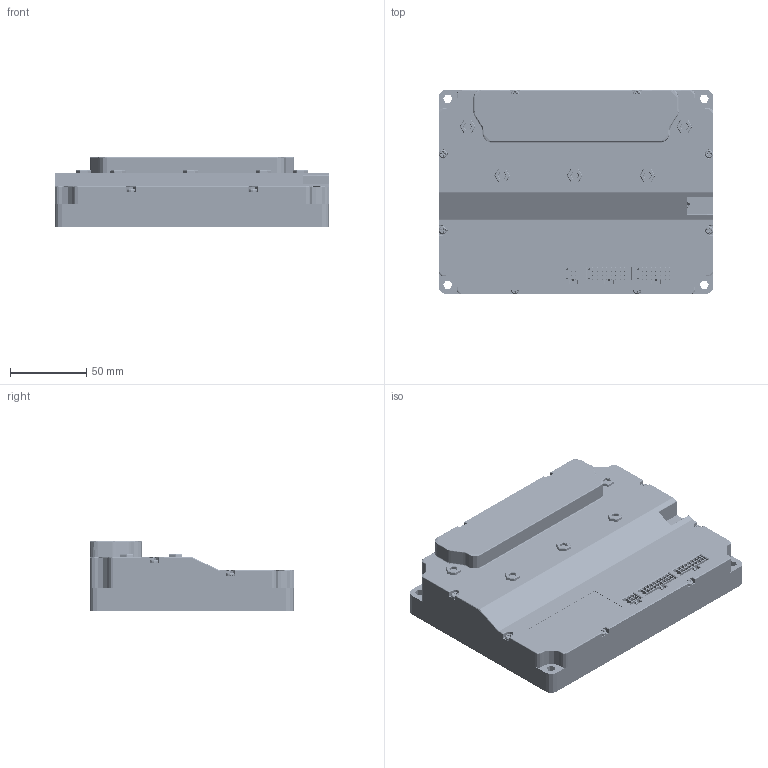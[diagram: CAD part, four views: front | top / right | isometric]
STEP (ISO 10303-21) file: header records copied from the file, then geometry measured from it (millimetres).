
FILE_DESCRIPTION (( 'STEP AP203' ), '1' );
FILE_NAME ('FTD100.STEP', '2020-03-31T15:57:50', ( '' ), ( '' ), 'SwSTEP 2.0', 'SolidWorks 2016', '' );
FILE_SCHEMA (( 'CONFIG_CONTROL_DESIGN' ));
Length unit declared in the file: millimetre
Products named in the file (662): 6.3X7.7X2.2; R77; R210; R160; C63; User_Library-Array-1206-4Way-Var2-1_Anschl_X_FCsse_1; SW3DPS-TO263-3S_450155217; TI_PDSO-14_PWP; C134; SC6; R40; R202; C21; R13; PIN; D40; D32; R84; D25; SC11; SW3dPS-TO263-3S_Board9; C110; FTSH-105-01-LM-DV-K; Sphere; R2; R38; BODY_4; basetta; IC3; IC15; R15_CPY; cap_0805; R150; C44; R199; C13; IC18; Leader_2; R8; D1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
Assembly tree (1166 placements, depth 10):
  FTD100
    Board
    D58
      1109446816
        BODY
          Open_CASCADE_STEP_translator_6.8_10.1.1
        Leader  x3
    R219
      RES0603
    R218
      RES0603
    C7
      cap_0603
    D56
      User_Library-SOD-123FL
    Q26
      1109443104
        BODY_2
          Open_CASCADE_STEP_translator_6.8_10.1.1_2
        Leader_2  x3
    R214
      User_Library-R1206
    C140
      User_Library-1206_SMD_Capacitor
    C139
      cap_0603
    J26
      1228269872  x4
        Sphere
    FB3
      RES0805
    C137
      User_Library-1206_SMD_Capacitor
    C135
      cap_0603
    R211
      RES0603
    C134
      cap_0603
    IC16
      DBV0006AAKAMF06A
        BODY_MF06A
        LEAD_MF06A  x6
    C122
      cap_0603
    FB8
      RES0805
    FB7
      RES0805
    C127
      User_Library-Cap-EL(12_5x25-5)
    C133
      User_Library-Cap-EL(12_5x25-5)
    C129
      User_Library-Cap-EL(12_5x25-5)
    C131
      User_Library-Cap-EL(12_5x25-5)
    C132
      User_Library-Cap-EL(12_5x25-5)
    C128
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Bounding box: 180 x 134.25 x 45.5 mm (x, y, z)
Topology: 1635 solids, 1846 shells, 44513 faces, 110865 edges, 70056 vertices
Faces by surface type: plane 26387, bspline 9461, cylinder 8509, cone 91, torus 56, sphere 9
Full cylindrical faces by diameter (mm): 3.24 x1
Entity records: 421751 total; most frequent: CARTESIAN_POINT 136664, ORIENTED_EDGE 42879, DIRECTION 40225, EDGE_CURVE 21487, LINE 15139, VECTOR 15139, VERTEX_POINT 13686, AXIS2_PLACEMENT_3D 12543
